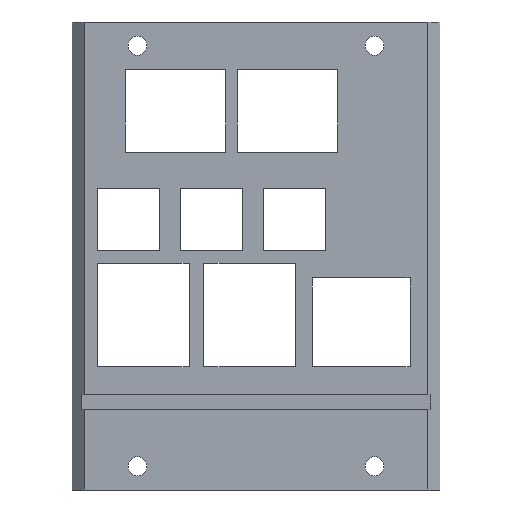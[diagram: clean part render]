
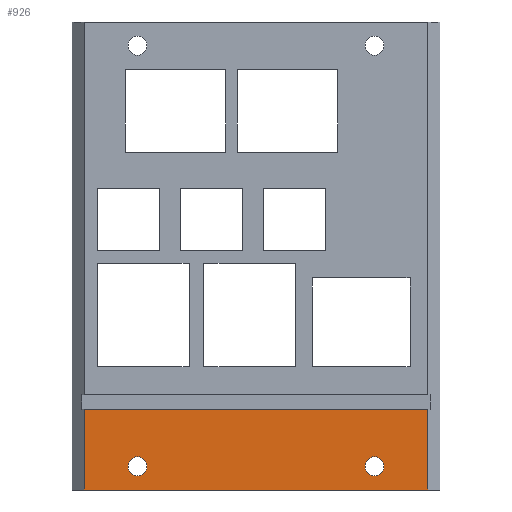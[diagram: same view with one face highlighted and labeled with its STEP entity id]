
A CAD part, left-side view. The second image highlights one B-rep face of the part: STEP entity #926.
In plain terms, the highlighted planar face has unit normal (-1, 0, 0).
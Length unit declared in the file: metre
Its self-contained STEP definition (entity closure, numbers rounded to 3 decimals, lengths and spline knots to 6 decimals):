
#16=LINE('',#1275,#136);
#17=LINE('',#1278,#137);
#18=LINE('',#1280,#138);
#19=LINE('',#1282,#139);
#136=VECTOR('',#1047,1.);
#137=VECTOR('',#1048,1.);
#138=VECTOR('',#1049,1.);
#139=VECTOR('',#1050,1.);
#256=ORIENTED_EDGE('',*,*,#512,.T.);
#257=ORIENTED_EDGE('',*,*,#513,.T.);
#258=ORIENTED_EDGE('',*,*,#514,.F.);
#259=ORIENTED_EDGE('',*,*,#515,.T.);
#260=ORIENTED_EDGE('',*,*,#516,.T.);
#261=ORIENTED_EDGE('',*,*,#517,.T.);
#512=EDGE_CURVE('',#640,#640,#728,.T.);
#513=EDGE_CURVE('',#641,#641,#729,.T.);
#514=EDGE_CURVE('',#642,#643,#16,.T.);
#515=EDGE_CURVE('',#642,#644,#17,.T.);
#516=EDGE_CURVE('',#644,#645,#18,.T.);
#517=EDGE_CURVE('',#645,#643,#19,.T.);
#640=VERTEX_POINT('',#1272);
#641=VERTEX_POINT('',#1274);
#642=VERTEX_POINT('',#1276);
#643=VERTEX_POINT('',#1277);
#644=VERTEX_POINT('',#1279);
#645=VERTEX_POINT('',#1281);
#728=CIRCLE('',#986,0.0016);
#729=CIRCLE('',#987,0.0016);
#736=EDGE_LOOP('',(#256));
#737=EDGE_LOOP('',(#257));
#738=EDGE_LOOP('',(#258,#259,#260,#261));
#810=FACE_BOUND('',#736,.T.);
#811=FACE_BOUND('',#737,.T.);
#812=FACE_BOUND('',#738,.T.);
#884=PLANE('',#985);
#926=ADVANCED_FACE('',(#810,#811,#812),#884,.F.);
#985=AXIS2_PLACEMENT_3D('',#1270,#1041,#1042);
#986=AXIS2_PLACEMENT_3D('',#1271,#1043,#1044);
#987=AXIS2_PLACEMENT_3D('',#1273,#1045,#1046);
#1041=DIRECTION('',(1.,0.,0.));
#1042=DIRECTION('',(0.,1.,0.));
#1043=DIRECTION('',(1.,0.,0.));
#1044=DIRECTION('',(0.,0.,-1.));
#1045=DIRECTION('',(1.,0.,0.));
#1046=DIRECTION('',(0.,0.,-1.));
#1047=DIRECTION('',(0.,-1.,0.));
#1048=DIRECTION('',(0.,0.,-1.));
#1049=DIRECTION('',(0.,-1.,0.));
#1050=DIRECTION('',(0.,0.,1.));
#1270=CARTESIAN_POINT('',(0.0445,0.,-0.0345));
#1271=CARTESIAN_POINT('',(0.0445,0.02,-0.07));
#1272=CARTESIAN_POINT('',(0.0445,0.02,-0.0716));
#1273=CARTESIAN_POINT('',(0.0445,-0.02,-0.07));
#1274=CARTESIAN_POINT('',(0.0445,-0.02,-0.0716));
#1275=CARTESIAN_POINT('',(0.0445,0.,-0.0604));
#1276=CARTESIAN_POINT('',(0.0445,0.029,-0.0604));
#1277=CARTESIAN_POINT('',(0.0445,-0.029,-0.0604));
#1278=CARTESIAN_POINT('',(0.0445,0.029,-0.0345));
#1279=CARTESIAN_POINT('',(0.0445,0.029,-0.074));
#1280=CARTESIAN_POINT('',(0.0445,0.,-0.074));
#1281=CARTESIAN_POINT('',(0.0445,-0.029,-0.074));
#1282=CARTESIAN_POINT('',(0.0445,-0.029,0.005));
